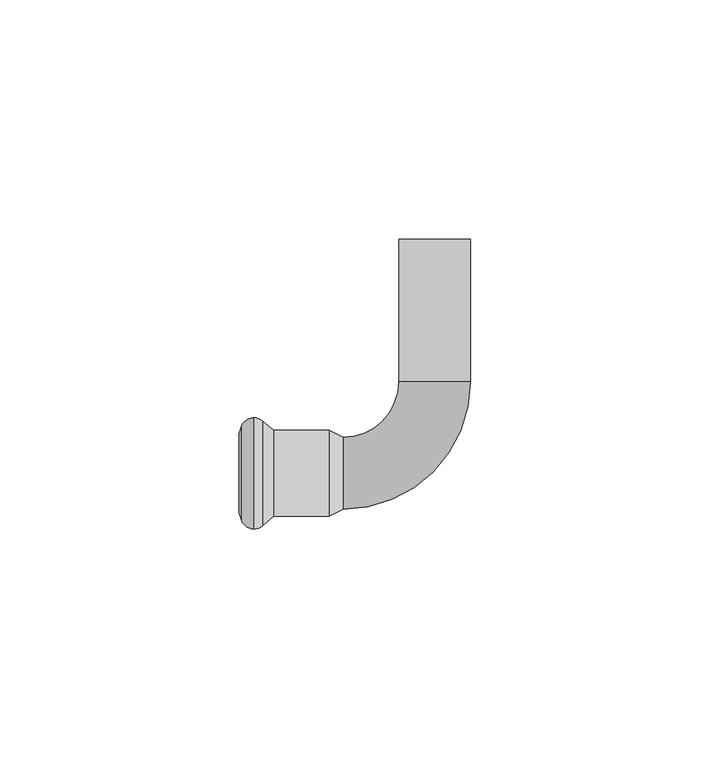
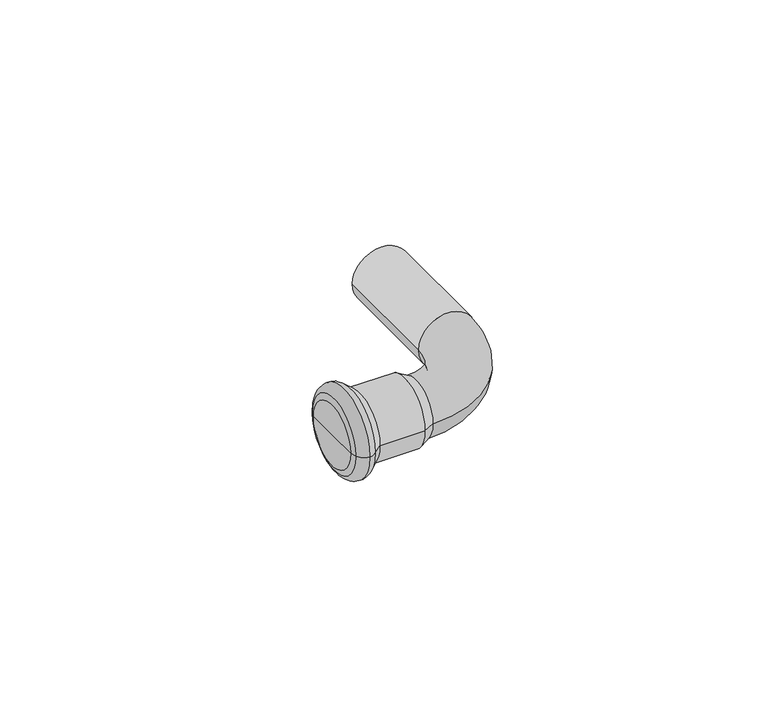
"""IFC4 building model written with IfcOpenShell, lengths in millimetres: pipe fitting geometry, KAN-therm Inox kolano nyplowe 45,90 : KAN-therm Inox kolano nyplowe 45,90."""

from ifc_helpers import new_model, si_unit, point, frame, origin, place, context, project, spatial, polyline, circle_curve, ellipse_curve, trimmed, source, transform, mapped, element, save
from ifc_brep_helpers import plane_surface, cylinder_surface, revolved_surface, advanced_brep


def pipe_fitting_c5b9b631(model_context):
    return source(origin(), model_context, "Body", "AdvancedBrep", [
        advanced_brep(
        [(-37.8921278, 11.625, 0.0), (-37.8921278, -11.625, 0.0), (-40.432052, -9.8484544, 0.0), (-40.432052, 9.8484544, 0.0), (-36.0922627, 10.9370225, 0.0), (-36.0922627, -10.9370225, 0.0), (-33.7838092, 9.0, 0.0), (-33.7838092, -9.0, 0.0), (-22.1180407, 9.0, 0.0), (-22.1180407, -9.0, 0.0), (-19.2, 7.5, 0.0), (-19.2, -7.5, 0.0), (-19.2, 0.0, 0.0), (-41.0, 8.2880302, 0.0), (-41.0, -8.2880302, 0.0), (-41.0, 0.0, 0.0)],
        [
            (0, 1, circle_curve(frame((-37.8921278, 0.0, 0.0), z_axis=(-1.0, 0.0, 0.0), x_axis=(0.0, -1.0, 0.0)), 11.625)),
            (1, 2, circle_curve(frame((-37.89488, -8.9249993, 0.0), z_axis=(0.0, 0.0, -1.0), x_axis=(0.0, 1.0, 0.0)), 2.7000021)),
            (2, 3, circle_curve(frame((-40.432052, 0.0, 0.0), z_axis=(1.0, 0.0, 0.0), x_axis=(0.0, -1.0, 0.0)), 9.8484544)),
            (3, 0, circle_curve(frame((-37.89488, 8.9249993, 0.0), z_axis=(0.0, 0.0, -1.0), x_axis=(0.0, -1.0, 0.0)), 2.7000021)),
            (1, 0, circle_curve(frame((-37.8921278, 0.0, 0.0), z_axis=(-1.0, 0.0, 0.0), x_axis=(0.0, -1.0, 0.0)), 11.625)),
            (3, 2, circle_curve(frame((-40.432052, 0.0, 0.0), z_axis=(1.0, 0.0, 0.0), x_axis=(0.0, -1.0, 0.0)), 9.8484544)),
            (4, 5, circle_curve(frame((-36.0922627, 0.0, 0.0), z_axis=(-1.0, 0.0, 0.0), x_axis=(0.0, -1.0, 0.0)), 10.9370225)),
            (5, 1, circle_curve(frame((-37.8935049, -8.9230333, 0.0), z_axis=(0.0, 0.0, -1.0), x_axis=(0.0, 1.0, 0.0)), 2.701967)),
            (0, 4, circle_curve(frame((-37.8935049, 8.9230333, 0.0), z_axis=(0.0, 0.0, -1.0), x_axis=(0.0, -1.0, 0.0)), 2.701967)),
            (5, 4, circle_curve(frame((-36.0922627, 0.0, 0.0), z_axis=(-1.0, 0.0, 0.0), x_axis=(0.0, -1.0, 0.0)), 10.9370225)),
            (6, 7, circle_curve(frame((-33.7838092, 0.0, 0.0), z_axis=(-1.0, 0.0, 0.0), x_axis=(0.0, -1.0, 0.0)), 9.0)),
            (7, 5),
            (4, 6),
            (7, 6, circle_curve(frame((-33.7838092, 0.0, 0.0), z_axis=(-1.0, 0.0, 0.0), x_axis=(0.0, -1.0, 0.0)), 9.0)),
            (8, 9, circle_curve(frame((-22.1180407, 0.0, 0.0), z_axis=(-1.0, 0.0, 0.0), x_axis=(0.0, -1.0, 0.0)), 9.0)),
            (9, 7),
            (6, 8),
            (9, 8, circle_curve(frame((-22.1180407, 0.0, 0.0), z_axis=(-1.0, 0.0, 0.0), x_axis=(0.0, -1.0, 0.0)), 9.0)),
            (10, 11, circle_curve(frame((-19.2, 0.0, 0.0), z_axis=(-1.0, 0.0, 0.0), x_axis=(0.0, -1.0, 0.0)), 7.5)),
            (11, 9),
            (8, 10),
            (11, 10, circle_curve(frame((-19.2, 0.0, 0.0), z_axis=(-1.0, 0.0, 0.0), x_axis=(0.0, -1.0, 0.0)), 7.5)),
            (12, 11),
            (10, 12),
            (13, 14, circle_curve(frame((-41.0, 0.0, 0.0), z_axis=(-1.0, 0.0, 0.0), x_axis=(0.0, -1.0, 0.0)), 8.2880302)),
            (14, 15),
            (15, 13),
            (14, 13, circle_curve(frame((-41.0, 0.0, 0.0), z_axis=(-1.0, 0.0, 0.0), x_axis=(0.0, -1.0, 0.0)), 8.2880302)),
            (2, 14),
            (13, 3),
        ],
        [
            revolved_surface(trimmed(ellipse_curve(frame((-37.89488, -8.9249993, 0.0), z_axis=(0.0, 0.0, 1.0), x_axis=(0.0, 1.0, 0.0)), 2.7000021, 2.7000021), [point((-40.432052, -9.8484544, 0.0))], [point((-37.8921278, -11.625, 0.0))], True, "CARTESIAN"), (-2000.0, 0.0, 0.0), (1.0, 0.0, 0.0)),
            revolved_surface(trimmed(ellipse_curve(frame((-37.8935049, -8.9230333, 0.0), z_axis=(0.0, 0.0, 1.0), x_axis=(0.0, 1.0, 0.0)), 2.701967, 2.701967), [point((-37.8921278, -11.625, 0.0))], [point((-36.0922627, -10.9370225, 0.0))], True, "CARTESIAN"), (-2000.0, 0.0, 0.0), (1.0, 0.0, 0.0)),
            revolved_surface(polyline([(-36.0922627, -10.9370225, 0.0), (-33.7838092, -9.0, 0.0)]), (-2000.0, 0.0, 0.0), (1.0, 0.0, 0.0)),
            cylinder_surface(frame((-2000.0, 0.0, 0.0), z_axis=(1.0, 0.0, 0.0), x_axis=(0.0, -1.0, 0.0)), 9.0),
            revolved_surface(polyline([(-22.1180407, -9.0, 0.0), (-19.2, -7.5, 0.0)]), (-2000.0, 0.0, 0.0), (1.0, 0.0, 0.0)),
            plane_surface(frame((-19.2, 0.0, 0.0), z_axis=(1.0, 0.0, 0.0), x_axis=(0.0, -1.0, 0.0))),
            plane_surface(frame((-41.0, 0.0, 0.0), z_axis=(-1.0, 0.0, 0.0), x_axis=(0.0, -1.0, 0.0))),
            revolved_surface(polyline([(-41.0, -8.2880302, 0.0), (-40.432052, -9.8484544, 0.0)]), (-2000.0, 0.0, 0.0), (1.0, 0.0, 0.0)),
        ],
        [
            (0, [[1, 2, 3, 4]]),
            (0, [[5, -4, 6, -2]]),
            (1, [[7, 8, -1, 9]]),
            (1, [[10, -9, -5, -8]]),
            (2, [[11, 12, -7, 13]]),
            (2, [[14, -13, -10, -12]]),
            (3, [[15, 16, -11, 17]]),
            (3, [[18, -17, -14, -16]]),
            (4, [[19, 20, -15, 21]]),
            (4, [[22, -21, -18, -20]]),
            (5, [[23, -19, 24]]),
            (5, [[-24, -22, -23]]),
            (6, [[25, 26, 27]]),
            (6, [[28, -27, -26]]),
            (7, [[-3, 29, -25, 30]]),
            (7, [[-6, -30, -28, -29]]),
        ],
    ),
        advanced_brep(
        [(-19.2, -7.5, 0.0), (-19.2, 7.5, 0.0), (-7.5, 19.2, 0.0), (7.5, 19.2, 0.0), (7.5, 49.0, 0.0), (-7.5, 49.0, 0.0)],
        [
            (0, 1, circle_curve(frame((-19.2, 0.0, 0.0), z_axis=(-1.0, 0.0, 0.0), x_axis=(0.0, 1.0, 0.0)), 7.5)),
            (1, 0, circle_curve(frame((-19.2, 0.0, 0.0), z_axis=(-1.0, 0.0, 0.0), x_axis=(0.0, 1.0, 0.0)), 7.5)),
            (2, 1, circle_curve(frame((-19.2, 19.2, 0.0), z_axis=(0.0, 0.0, -1.0), x_axis=(0.0, -1.0, 0.0)), 11.7)),
            (0, 3, circle_curve(frame((-19.2, 19.2, 0.0), z_axis=(0.0, 0.0, 1.0), x_axis=(0.0, -1.0, 0.0)), 26.7)),
            (3, 2, circle_curve(frame((0.0, 19.2, 0.0), z_axis=(0.0, -1.0, 0.0), x_axis=(-1.0, 0.0, 0.0)), 7.5)),
            (2, 3, circle_curve(frame((0.0, 19.2, 0.0), z_axis=(0.0, -1.0, 0.0), x_axis=(-1.0, 0.0, 0.0)), 7.5)),
            (4, 5, circle_curve(frame((0.0, 49.0, 0.0), z_axis=(0.0, 1.0, 0.0), x_axis=(-1.0, 0.0, 0.0)), 7.5)),
            (5, 4, circle_curve(frame((0.0, 49.0, 0.0), z_axis=(0.0, 1.0, 0.0), x_axis=(-1.0, 0.0, 0.0)), 7.5)),
            (3, 4),
            (5, 2),
        ],
        [
            plane_surface(frame((-19.2, 0.0, 0.0), z_axis=(-1.0, 0.0, 0.0), x_axis=(0.0, 0.0, 1.0))),
            revolved_surface(trimmed(ellipse_curve(frame((-19.2, 0.0, 0.0), z_axis=(-1.0, 0.0, 0.0), x_axis=(0.0, 1.0, 0.0)), 7.5, 7.5), [point((-19.2, -7.5, 0.0))], [point((-19.2, 7.5, 0.0))], True, "CARTESIAN"), (-19.2, 19.2, 0.0), (0.0, 0.0, 1.0)),
            revolved_surface(trimmed(ellipse_curve(frame((-19.2, 0.0, 0.0), z_axis=(-1.0, 0.0, 0.0), x_axis=(0.0, 1.0, 0.0)), 7.5, 7.5), [point((-19.2, 7.5, 0.0))], [point((-19.2, -7.5, 0.0))], True, "CARTESIAN"), (-19.2, 19.2, 0.0), (0.0, 0.0, 1.0)),
            plane_surface(frame((0.0, 49.0, 0.0), z_axis=(0.0, 1.0, 0.0), x_axis=(0.0, 0.0, 1.0))),
            cylinder_surface(frame((0.0, 19.2, 0.0), z_axis=(0.0, -1.0, 0.0), x_axis=(-1.0, 0.0, 0.0)), 7.5),
        ],
        [
            (0, [[1, 2]]),
            (1, [[3, -1, 4, 5]]),
            (2, [[-4, -2, -3, 6]]),
            (3, [[7, 8]]),
            (4, [[-5, 9, -8, 10]]),
            (4, [[-6, -10, -7, -9]]),
        ],
    ),
    ])


if __name__ == "__main__":
    model = new_model("IFC4")
    model_context = context("Model", 3, world=origin())
    ifc_project = project(units=[si_unit("LENGTHUNIT", "METRE", prefix="MILLI")], contexts=[model_context])
    site = spatial("IfcSite", under=ifc_project)
    building = spatial("IfcBuilding", under=site)
    placement = place(None, origin())
    pipe_fitting_shape = pipe_fitting_c5b9b631(model_context)
    element("IfcPipeFitting", 1, ObjectType="KAN-therm Inox kolano nyplowe 45,90 : KAN-therm Inox kolano nyplowe 45,90", at=placement, inside=building, context=model_context, shape_type="MappedRepresentation", body=[
        mapped(pipe_fitting_shape, transform((0.0, 0.0, 0.0), x_axis=(1.0, 0.0, 0.0), y_axis=(0.0, 1.0, 0.0), z_axis=(0.0, 0.0, 1.0))),
    ])
    save(model, "model.ifc")
